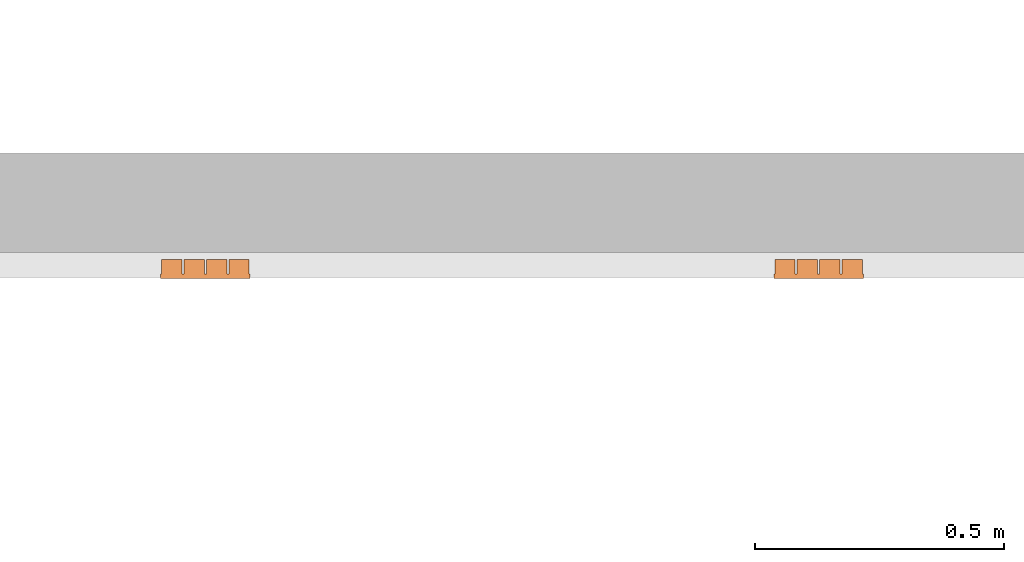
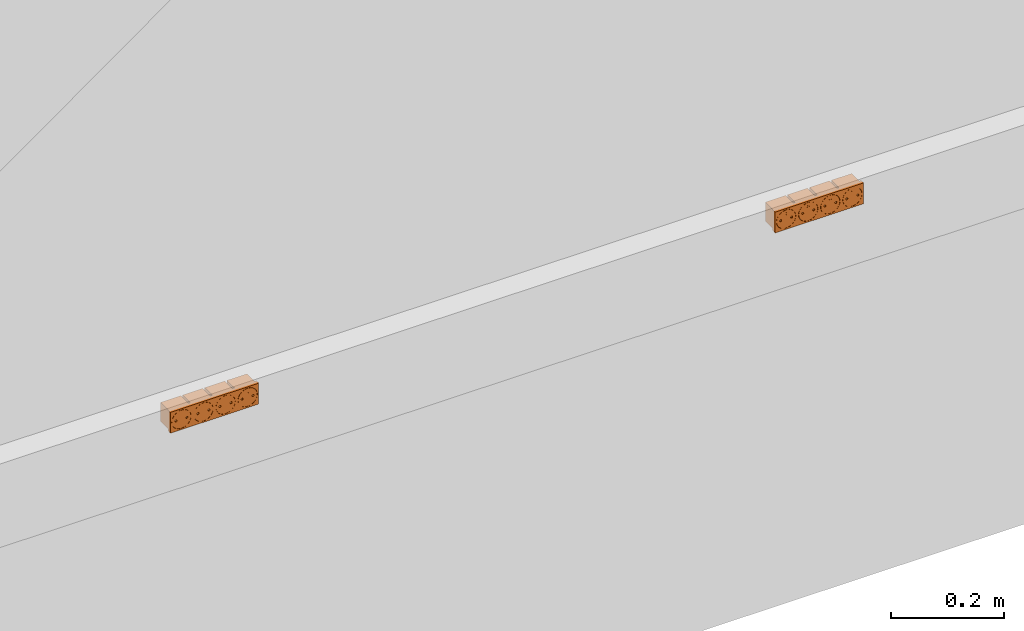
# One storey, part 68 of 197: 2 proxies.
"""IFC2X3 building model written with IfcOpenShell, lengths in metres."""

from ifc_helpers import new_model, entity, si_unit, converted_unit, direction, frame, frame_2d, origin, origin_2d_with_axis, place, context, subcontext, project, spatial, polyline, circle_curve, parameter, trimmed, segment, composite_curve, rectangle, circle, outline, extrude, source, transform, mapped, material, material_list, type_object, type_shapes, element, save


model = new_model("IFC2X3")

# Units and contexts
model_context = context("Model", 3, precision=1e-05, world=origin(), true_north=direction((6.123031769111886e-17, 1.0)))
body_context = subcontext(model_context, "Body", "Model", "MODEL_VIEW")
ifc_project = project(units=[si_unit("LENGTHUNIT", "METRE"), converted_unit("PLANEANGLEUNIT", "DEGREE", entity("IfcPlaneAngleMeasure", 0.017453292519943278), si_unit("PLANEANGLEUNIT", "RADIAN"), dimensions=[0, 0, 0, 0, 0, 0, 0]), si_unit("AREAUNIT", "SQUARE_METRE")], contexts=[model_context])

# Site, building, storey
site_placement = place(None, origin())
site = spatial("IfcSite", under=ifc_project, at=site_placement, Name="Default", CompositionType="ELEMENT")
building_placement = place(site_placement, origin())
building = spatial("IfcBuilding", under=site, at=building_placement, CompositionType="ELEMENT")
storey_placement = place(building_placement, origin())
storey = spatial("IfcBuildingStorey", under=building, at=storey_placement, Name="Niveau 0", CompositionType="ELEMENT", Elevation=0.0)

# Proxies
ifc_material_1 = material(Name="<Unnamed>")
ifc_material_2 = material(Name="BETCE-PCN-BLANC")
ifc_material_list = material_list([ifc_material_1, ifc_material_2])
building_element_proxy_type_1 = type_object("IfcBuildingElementProxyType", Name="Prise quadruple goulotte horizontale:PCM", PredefinedType="NOTDEFINED", material=ifc_material_list)
shared_shape_1 = source(origin(), body_context, "Body", "SweptSolid", [
    extrude(rectangle(XDim=0.02900000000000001, YDim=0.040999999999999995, at=frame_2d((8.673617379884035e-19, -3.469446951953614e-18), x_axis=(1.0, 0.0))), frame((0.06745922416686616, 0.014506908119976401, -0.02050000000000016), z_axis=(0.0, 0.0, 1.0), x_axis=(0.0, 1.0, 0.0)), (0.0, 0.0, 1.0), 0.041),
    extrude(outline(polyline([(-0.022500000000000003, -0.022500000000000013), (0.022500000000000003, -0.022500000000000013), (0.022500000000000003, 0.022500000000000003), (-0.0225, 0.022500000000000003), (-0.022500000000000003, -0.022500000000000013)]), holes=[composite_curve([segment(trimmed(circle_curve(frame_2d((0.0, 0.0), x_axis=(0.0, 1.0)), 0.019799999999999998), [parameter(179.99999999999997)], [parameter(359.99999999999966)], True, "PARAMETER"), False, "CONTINUOUS"), segment(trimmed(circle_curve(frame_2d((0.0, 0.0), x_axis=(0.0, 1.0)), 0.019799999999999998), [parameter(3.5622212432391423e-13)], [parameter(179.99999999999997)], True, "PARAMETER"), False, "CONTINUOUS")], self_intersect=False)]), frame((0.06745922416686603, -0.00899309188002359, 0.0), z_axis=(0.0, 1.0, 0.0), x_axis=(0.0, 0.0, 1.0)), (0.0, 0.0, 1.0), 0.008993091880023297),
    extrude(outline(composite_curve([segment(trimmed(circle_curve(origin_2d_with_axis(), 0.0195), [parameter(3.5622212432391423e-13)], [parameter(180.00000000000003)], True, "PARAMETER"), True, "CONTINUOUS"), segment(trimmed(circle_curve(origin_2d_with_axis(), 0.0195), [parameter(180.00000000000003)], [parameter(359.99999999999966)], True, "PARAMETER"), True, "CONTINUOUS")], self_intersect=False), holes=[composite_curve([segment(trimmed(circle_curve(frame_2d((0.0, -0.01110000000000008), x_axis=(1.0, 0.0)), 0.0022), [parameter(179.9999999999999)], [parameter(359.9999999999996)], True, "PARAMETER"), False, "CONTINUOUS"), segment(trimmed(circle_curve(frame_2d((0.0, -0.01110000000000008), x_axis=(1.0, 0.0)), 0.0022), [parameter(4.0711099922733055e-13)], [parameter(179.99999999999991)], True, "PARAMETER"), False, "CONTINUOUS")], self_intersect=False), composite_curve([segment(trimmed(circle_curve(frame_2d((0.011200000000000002, 0.0), x_axis=(1.0, 0.0)), 0.0022), [parameter(179.99999999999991)], [parameter(359.99999999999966)], True, "PARAMETER"), False, "CONTINUOUS"), segment(trimmed(circle_curve(frame_2d((0.011200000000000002, 0.0), x_axis=(1.0, 0.0)), 0.0022), [parameter(3.5622212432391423e-13)], [parameter(179.99999999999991)], True, "PARAMETER"), False, "CONTINUOUS")], self_intersect=False), composite_curve([segment(trimmed(circle_curve(frame_2d((-0.01119999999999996, 0.0), x_axis=(1.0, 0.0)), 0.0022), [parameter(179.99999999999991)], [parameter(359.99999999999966)], True, "PARAMETER"), False, "CONTINUOUS"), segment(trimmed(circle_curve(frame_2d((-0.01119999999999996, 0.0), x_axis=(1.0, 0.0)), 0.0022), [parameter(3.5622212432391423e-13)], [parameter(179.99999999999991)], True, "PARAMETER"), False, "CONTINUOUS")], self_intersect=False)]), frame((0.0674592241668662, -0.00899309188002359, 0.0), z_axis=(0.0, 1.0, 0.0), x_axis=(1.0, 0.0, 0.0)), (0.0, 0.0, 1.0), 0.008993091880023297),
    extrude(circle(Radius=0.002099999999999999, at=frame_2d((0.0, -8.459899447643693e-18), x_axis=(1.0, 0.0))), frame((0.06745922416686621, -0.008993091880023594, 0.011099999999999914), z_axis=(0.0, 1.0, 0.0), x_axis=(1.0, 0.0, 0.0)), (0.0, 0.0, 1.0), 0.008993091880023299),
    extrude(rectangle(XDim=0.02900690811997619, YDim=0.041, at=frame_2d((8.673617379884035e-19, 0.0), x_axis=(1.0, 0.0))), frame((-0.06754077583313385, 0.014503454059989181, -0.020500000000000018), z_axis=(0.0, 0.0, 1.0), x_axis=(0.0, 1.0, 0.0)), (0.0, 0.0, 1.0), 0.041),
    extrude(outline(polyline([(-0.022500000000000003, -0.022499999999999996), (0.022500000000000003, -0.022499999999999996), (0.022500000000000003, 0.022500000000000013), (-0.0225, 0.022500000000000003), (-0.022500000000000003, -0.022499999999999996)]), holes=[composite_curve([segment(trimmed(circle_curve(frame_2d((0.0, 0.0), x_axis=(0.0, 1.0)), 0.019799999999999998), [parameter(179.99999999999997)], [parameter(359.99999999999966)], True, "PARAMETER"), False, "CONTINUOUS"), segment(trimmed(circle_curve(frame_2d((0.0, 0.0), x_axis=(0.0, 1.0)), 0.019799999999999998), [parameter(3.5622212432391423e-13)], [parameter(179.99999999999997)], True, "PARAMETER"), False, "CONTINUOUS")], self_intersect=False)]), frame((-0.067540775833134, -0.00899309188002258, 0.0), z_axis=(0.0, 1.0, 0.0), x_axis=(0.0, 0.0, 1.0)), (0.0, 0.0, 1.0), 0.008993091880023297),
    extrude(outline(composite_curve([segment(trimmed(circle_curve(origin_2d_with_axis(), 0.0195), [parameter(3.5622212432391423e-13)], [parameter(180.00000000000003)], True, "PARAMETER"), True, "CONTINUOUS"), segment(trimmed(circle_curve(origin_2d_with_axis(), 0.0195), [parameter(180.00000000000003)], [parameter(359.99999999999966)], True, "PARAMETER"), True, "CONTINUOUS")], self_intersect=False), holes=[composite_curve([segment(trimmed(circle_curve(frame_2d((0.0, -0.01110000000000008), x_axis=(1.0, 0.0)), 0.0022), [parameter(179.9999999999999)], [parameter(359.9999999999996)], True, "PARAMETER"), False, "CONTINUOUS"), segment(trimmed(circle_curve(frame_2d((0.0, -0.01110000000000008), x_axis=(1.0, 0.0)), 0.0022), [parameter(4.0711099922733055e-13)], [parameter(179.99999999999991)], True, "PARAMETER"), False, "CONTINUOUS")], self_intersect=False), composite_curve([segment(trimmed(circle_curve(frame_2d((0.011199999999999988, 0.0), x_axis=(1.0, 0.0)), 0.0022), [parameter(179.99999999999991)], [parameter(359.99999999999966)], True, "PARAMETER"), False, "CONTINUOUS"), segment(trimmed(circle_curve(frame_2d((0.011199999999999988, 0.0), x_axis=(1.0, 0.0)), 0.0022), [parameter(3.5622212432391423e-13)], [parameter(179.99999999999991)], True, "PARAMETER"), False, "CONTINUOUS")], self_intersect=False), composite_curve([segment(trimmed(circle_curve(frame_2d((-0.01119999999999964, 0.0), x_axis=(1.0, 0.0)), 0.0022), [parameter(179.99999999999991)], [parameter(359.99999999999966)], True, "PARAMETER"), False, "CONTINUOUS"), segment(trimmed(circle_curve(frame_2d((-0.01119999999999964, 0.0), x_axis=(1.0, 0.0)), 0.0022), [parameter(3.5622212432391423e-13)], [parameter(179.99999999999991)], True, "PARAMETER"), False, "CONTINUOUS")], self_intersect=False)]), frame((-0.0675407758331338, -0.00899309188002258, 0.0), z_axis=(0.0, 1.0, 0.0), x_axis=(1.0, 0.0, 0.0)), (0.0, 0.0, 1.0), 0.008993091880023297),
    extrude(circle(Radius=0.002099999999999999, at=frame_2d((0.0, -8.459899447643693e-18), x_axis=(1.0, 0.0))), frame((-0.06754077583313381, -0.008993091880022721, 0.011100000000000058), z_axis=(0.0, 1.0, 0.0), x_axis=(1.0, 0.0, 0.0)), (0.0, 0.0, 1.0), 0.008993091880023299),
    extrude(circle(Radius=0.002099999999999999, at=frame_2d((0.0, -8.459899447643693e-18), x_axis=(1.0, 0.0))), frame((0.022459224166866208, -0.008993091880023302, 0.011100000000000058), z_axis=(0.0, 1.0, 0.0), x_axis=(1.0, 0.0, 0.0)), (0.0, 0.0, 1.0), 0.008993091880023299),
    extrude(rectangle(XDim=0.02900000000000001, YDim=0.041, at=frame_2d((8.673617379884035e-19, 0.0), x_axis=(1.0, 0.0))), frame((0.022459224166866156, 0.014506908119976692, -0.020500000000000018), z_axis=(0.0, 0.0, 1.0), x_axis=(0.0, 1.0, 0.0)), (0.0, 0.0, 1.0), 0.041),
    extrude(outline(polyline([(-0.022500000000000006, -0.022500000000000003), (0.022500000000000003, -0.022500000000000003), (0.022500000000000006, 0.022500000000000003), (-0.0225, 0.0225), (-0.022500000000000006, -0.022500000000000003)]), holes=[composite_curve([segment(trimmed(circle_curve(frame_2d((0.0, 0.0), x_axis=(0.0, 1.0)), 0.019799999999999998), [parameter(179.99999999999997)], [parameter(359.99999999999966)], True, "PARAMETER"), False, "CONTINUOUS"), segment(trimmed(circle_curve(frame_2d((0.0, 0.0), x_axis=(0.0, 1.0)), 0.019799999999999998), [parameter(3.5622212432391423e-13)], [parameter(179.99999999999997)], True, "PARAMETER"), False, "CONTINUOUS")], self_intersect=False)]), frame((0.02245922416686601, -0.0089930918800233, 0.0), z_axis=(0.0, 1.0, 0.0), x_axis=(0.0, 0.0, 1.0)), (0.0, 0.0, 1.0), 0.008993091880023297),
    extrude(outline(composite_curve([segment(trimmed(circle_curve(origin_2d_with_axis(), 0.0195), [parameter(3.5622212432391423e-13)], [parameter(180.00000000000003)], True, "PARAMETER"), True, "CONTINUOUS"), segment(trimmed(circle_curve(origin_2d_with_axis(), 0.0195), [parameter(180.00000000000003)], [parameter(359.99999999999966)], True, "PARAMETER"), True, "CONTINUOUS")], self_intersect=False), holes=[composite_curve([segment(trimmed(circle_curve(frame_2d((0.0, -0.01110000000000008), x_axis=(1.0, 0.0)), 0.0022), [parameter(179.9999999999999)], [parameter(359.9999999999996)], True, "PARAMETER"), False, "CONTINUOUS"), segment(trimmed(circle_curve(frame_2d((0.0, -0.01110000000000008), x_axis=(1.0, 0.0)), 0.0022), [parameter(4.0711099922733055e-13)], [parameter(179.99999999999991)], True, "PARAMETER"), False, "CONTINUOUS")], self_intersect=False), composite_curve([segment(trimmed(circle_curve(frame_2d((0.011199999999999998, 0.0), x_axis=(1.0, 0.0)), 0.0022), [parameter(179.99999999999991)], [parameter(359.99999999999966)], True, "PARAMETER"), False, "CONTINUOUS"), segment(trimmed(circle_curve(frame_2d((0.011199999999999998, 0.0), x_axis=(1.0, 0.0)), 0.0022), [parameter(3.5622212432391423e-13)], [parameter(179.99999999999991)], True, "PARAMETER"), False, "CONTINUOUS")], self_intersect=False), composite_curve([segment(trimmed(circle_curve(frame_2d((-0.011199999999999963, 0.0), x_axis=(1.0, 0.0)), 0.0022), [parameter(179.99999999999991)], [parameter(359.99999999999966)], True, "PARAMETER"), False, "CONTINUOUS"), segment(trimmed(circle_curve(frame_2d((-0.011199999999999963, 0.0), x_axis=(1.0, 0.0)), 0.0022), [parameter(3.5622212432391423e-13)], [parameter(179.99999999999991)], True, "PARAMETER"), False, "CONTINUOUS")], self_intersect=False)]), frame((0.02245922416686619, -0.0089930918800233, 0.0), z_axis=(0.0, 1.0, 0.0), x_axis=(1.0, 0.0, 0.0)), (0.0, 0.0, 1.0), 0.008993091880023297),
    extrude(circle(Radius=0.002099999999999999, at=frame_2d((0.0, -8.459899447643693e-18), x_axis=(1.0, 0.0))), frame((-0.0225407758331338, -0.008993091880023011, 0.011100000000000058), z_axis=(0.0, 1.0, 0.0), x_axis=(1.0, 0.0, 0.0)), (0.0, 0.0, 1.0), 0.008993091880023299),
    extrude(rectangle(XDim=0.02900690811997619, YDim=0.041, at=frame_2d((-8.673617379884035e-19, 0.0), x_axis=(1.0, 0.0))), frame((-0.022540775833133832, 0.014503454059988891, -0.020500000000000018), z_axis=(0.0, 0.0, 1.0), x_axis=(0.0, 1.0, 0.0)), (0.0, 0.0, 1.0), 0.041),
    extrude(outline(polyline([(-0.022500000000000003, -0.022500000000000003), (0.022500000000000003, -0.022500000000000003), (0.022500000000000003, 0.022500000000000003), (-0.0225, 0.022500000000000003), (-0.022500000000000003, -0.022500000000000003)]), holes=[composite_curve([segment(trimmed(circle_curve(frame_2d((0.0, 0.0), x_axis=(0.0, 1.0)), 0.019799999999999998), [parameter(179.99999999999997)], [parameter(359.99999999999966)], True, "PARAMETER"), False, "CONTINUOUS"), segment(trimmed(circle_curve(frame_2d((0.0, 0.0), x_axis=(0.0, 1.0)), 0.019799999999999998), [parameter(3.5622212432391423e-13)], [parameter(179.99999999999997)], True, "PARAMETER"), False, "CONTINUOUS")], self_intersect=False)]), frame((-0.022540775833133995, -0.00899309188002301, 0.0), z_axis=(0.0, 1.0, 0.0), x_axis=(0.0, 0.0, 1.0)), (0.0, 0.0, 1.0), 0.008993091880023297),
    extrude(outline(composite_curve([segment(trimmed(circle_curve(origin_2d_with_axis(), 0.0195), [parameter(3.5622212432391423e-13)], [parameter(180.00000000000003)], True, "PARAMETER"), True, "CONTINUOUS"), segment(trimmed(circle_curve(origin_2d_with_axis(), 0.0195), [parameter(180.00000000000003)], [parameter(359.99999999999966)], True, "PARAMETER"), True, "CONTINUOUS")], self_intersect=False), holes=[composite_curve([segment(trimmed(circle_curve(frame_2d((0.0, -0.01110000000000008), x_axis=(1.0, 0.0)), 0.0022), [parameter(179.9999999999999)], [parameter(359.9999999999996)], True, "PARAMETER"), False, "CONTINUOUS"), segment(trimmed(circle_curve(frame_2d((0.0, -0.01110000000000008), x_axis=(1.0, 0.0)), 0.0022), [parameter(4.0711099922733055e-13)], [parameter(179.99999999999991)], True, "PARAMETER"), False, "CONTINUOUS")], self_intersect=False), composite_curve([segment(trimmed(circle_curve(frame_2d((0.011199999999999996, 0.0), x_axis=(1.0, 0.0)), 0.0022), [parameter(179.99999999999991)], [parameter(359.99999999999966)], True, "PARAMETER"), False, "CONTINUOUS"), segment(trimmed(circle_curve(frame_2d((0.011199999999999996, 0.0), x_axis=(1.0, 0.0)), 0.0022), [parameter(3.5622212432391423e-13)], [parameter(179.99999999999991)], True, "PARAMETER"), False, "CONTINUOUS")], self_intersect=False), composite_curve([segment(trimmed(circle_curve(frame_2d((-0.011199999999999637, 0.0), x_axis=(1.0, 0.0)), 0.0022), [parameter(179.99999999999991)], [parameter(359.99999999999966)], True, "PARAMETER"), False, "CONTINUOUS"), segment(trimmed(circle_curve(frame_2d((-0.011199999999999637, 0.0), x_axis=(1.0, 0.0)), 0.0022), [parameter(3.5622212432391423e-13)], [parameter(179.99999999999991)], True, "PARAMETER"), False, "CONTINUOUS")], self_intersect=False)]), frame((-0.0225407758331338, -0.00899309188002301, 0.0), z_axis=(0.0, 1.0, 0.0), x_axis=(1.0, 0.0, 0.0)), (0.0, 0.0, 1.0), 0.008993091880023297),
])
type_shapes(building_element_proxy_type_1, [shared_shape_1])
proxy_1_placement = place(storey_placement, frame((-397.444448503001, 76.46896719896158, 0.8693246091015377)))
element("IfcBuildingElementProxy", 1, at=proxy_1_placement, inside=storey, type_object=building_element_proxy_type_1, material=ifc_material_list, Name="Prise quadruple goulotte horizontale:PCM", ObjectType="Prise quadruple goulotte horizontale:PCM", context=body_context, shape_type="MappedRepresentation", body=[
    mapped(shared_shape_1, transform((0.0, 0.0, 0.0), scale=1.0)),
])
building_element_proxy_type_2 = type_object("IfcBuildingElementProxyType", Name="Prise quadruple goulotte horizontale:PCN", PredefinedType="NOTDEFINED", material=ifc_material_list)
shared_shape_2 = source(origin(), body_context, "Body", "SweptSolid", [
    extrude(rectangle(XDim=0.02900000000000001, YDim=0.040999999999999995, at=frame_2d((8.673617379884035e-19, -3.469446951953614e-18), x_axis=(1.0, 0.0))), frame((0.06745922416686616, 0.014506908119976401, -0.02050000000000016), z_axis=(0.0, 0.0, 1.0), x_axis=(0.0, 1.0, 0.0)), (0.0, 0.0, 1.0), 0.041),
    extrude(outline(polyline([(-0.022500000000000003, -0.022500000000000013), (0.022500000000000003, -0.022500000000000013), (0.022500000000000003, 0.022500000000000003), (-0.0225, 0.022500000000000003), (-0.022500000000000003, -0.022500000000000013)]), holes=[composite_curve([segment(trimmed(circle_curve(frame_2d((0.0, 0.0), x_axis=(0.0, 1.0)), 0.019799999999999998), [parameter(179.99999999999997)], [parameter(359.99999999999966)], True, "PARAMETER"), False, "CONTINUOUS"), segment(trimmed(circle_curve(frame_2d((0.0, 0.0), x_axis=(0.0, 1.0)), 0.019799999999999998), [parameter(3.5622212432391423e-13)], [parameter(179.99999999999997)], True, "PARAMETER"), False, "CONTINUOUS")], self_intersect=False)]), frame((0.06745922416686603, -0.00899309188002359, 0.0), z_axis=(0.0, 1.0, 0.0), x_axis=(0.0, 0.0, 1.0)), (0.0, 0.0, 1.0), 0.008993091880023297),
    extrude(outline(composite_curve([segment(trimmed(circle_curve(origin_2d_with_axis(), 0.0195), [parameter(3.5622212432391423e-13)], [parameter(180.00000000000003)], True, "PARAMETER"), True, "CONTINUOUS"), segment(trimmed(circle_curve(origin_2d_with_axis(), 0.0195), [parameter(180.00000000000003)], [parameter(359.99999999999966)], True, "PARAMETER"), True, "CONTINUOUS")], self_intersect=False), holes=[composite_curve([segment(trimmed(circle_curve(frame_2d((0.0, -0.01110000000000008), x_axis=(1.0, 0.0)), 0.0022), [parameter(179.9999999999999)], [parameter(359.9999999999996)], True, "PARAMETER"), False, "CONTINUOUS"), segment(trimmed(circle_curve(frame_2d((0.0, -0.01110000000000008), x_axis=(1.0, 0.0)), 0.0022), [parameter(4.0711099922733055e-13)], [parameter(179.99999999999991)], True, "PARAMETER"), False, "CONTINUOUS")], self_intersect=False), composite_curve([segment(trimmed(circle_curve(frame_2d((0.011200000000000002, 0.0), x_axis=(1.0, 0.0)), 0.0022), [parameter(179.99999999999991)], [parameter(359.99999999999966)], True, "PARAMETER"), False, "CONTINUOUS"), segment(trimmed(circle_curve(frame_2d((0.011200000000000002, 0.0), x_axis=(1.0, 0.0)), 0.0022), [parameter(3.5622212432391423e-13)], [parameter(179.99999999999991)], True, "PARAMETER"), False, "CONTINUOUS")], self_intersect=False), composite_curve([segment(trimmed(circle_curve(frame_2d((-0.01119999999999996, 0.0), x_axis=(1.0, 0.0)), 0.0022), [parameter(179.99999999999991)], [parameter(359.99999999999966)], True, "PARAMETER"), False, "CONTINUOUS"), segment(trimmed(circle_curve(frame_2d((-0.01119999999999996, 0.0), x_axis=(1.0, 0.0)), 0.0022), [parameter(3.5622212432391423e-13)], [parameter(179.99999999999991)], True, "PARAMETER"), False, "CONTINUOUS")], self_intersect=False)]), frame((0.0674592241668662, -0.00899309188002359, 0.0), z_axis=(0.0, 1.0, 0.0), x_axis=(1.0, 0.0, 0.0)), (0.0, 0.0, 1.0), 0.008993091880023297),
    extrude(circle(Radius=0.002099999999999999, at=frame_2d((0.0, -8.459899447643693e-18), x_axis=(1.0, 0.0))), frame((0.06745922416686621, -0.008993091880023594, 0.011099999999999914), z_axis=(0.0, 1.0, 0.0), x_axis=(1.0, 0.0, 0.0)), (0.0, 0.0, 1.0), 0.008993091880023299),
    extrude(rectangle(XDim=0.02900690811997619, YDim=0.041, at=frame_2d((8.673617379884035e-19, 0.0), x_axis=(1.0, 0.0))), frame((-0.06754077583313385, 0.014503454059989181, -0.020500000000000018), z_axis=(0.0, 0.0, 1.0), x_axis=(0.0, 1.0, 0.0)), (0.0, 0.0, 1.0), 0.041),
    extrude(outline(polyline([(-0.022500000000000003, -0.022499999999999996), (0.022500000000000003, -0.022499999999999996), (0.022500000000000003, 0.022500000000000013), (-0.0225, 0.022500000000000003), (-0.022500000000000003, -0.022499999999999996)]), holes=[composite_curve([segment(trimmed(circle_curve(frame_2d((0.0, 0.0), x_axis=(0.0, 1.0)), 0.019799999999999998), [parameter(179.99999999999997)], [parameter(359.99999999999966)], True, "PARAMETER"), False, "CONTINUOUS"), segment(trimmed(circle_curve(frame_2d((0.0, 0.0), x_axis=(0.0, 1.0)), 0.019799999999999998), [parameter(3.5622212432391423e-13)], [parameter(179.99999999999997)], True, "PARAMETER"), False, "CONTINUOUS")], self_intersect=False)]), frame((-0.067540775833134, -0.00899309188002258, 0.0), z_axis=(0.0, 1.0, 0.0), x_axis=(0.0, 0.0, 1.0)), (0.0, 0.0, 1.0), 0.008993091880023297),
    extrude(outline(composite_curve([segment(trimmed(circle_curve(origin_2d_with_axis(), 0.0195), [parameter(3.5622212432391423e-13)], [parameter(180.00000000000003)], True, "PARAMETER"), True, "CONTINUOUS"), segment(trimmed(circle_curve(origin_2d_with_axis(), 0.0195), [parameter(180.00000000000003)], [parameter(359.99999999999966)], True, "PARAMETER"), True, "CONTINUOUS")], self_intersect=False), holes=[composite_curve([segment(trimmed(circle_curve(frame_2d((0.0, -0.01110000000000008), x_axis=(1.0, 0.0)), 0.0022), [parameter(179.9999999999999)], [parameter(359.9999999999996)], True, "PARAMETER"), False, "CONTINUOUS"), segment(trimmed(circle_curve(frame_2d((0.0, -0.01110000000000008), x_axis=(1.0, 0.0)), 0.0022), [parameter(4.0711099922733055e-13)], [parameter(179.99999999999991)], True, "PARAMETER"), False, "CONTINUOUS")], self_intersect=False), composite_curve([segment(trimmed(circle_curve(frame_2d((0.011199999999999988, 0.0), x_axis=(1.0, 0.0)), 0.0022), [parameter(179.99999999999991)], [parameter(359.99999999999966)], True, "PARAMETER"), False, "CONTINUOUS"), segment(trimmed(circle_curve(frame_2d((0.011199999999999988, 0.0), x_axis=(1.0, 0.0)), 0.0022), [parameter(3.5622212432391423e-13)], [parameter(179.99999999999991)], True, "PARAMETER"), False, "CONTINUOUS")], self_intersect=False), composite_curve([segment(trimmed(circle_curve(frame_2d((-0.01119999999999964, 0.0), x_axis=(1.0, 0.0)), 0.0022), [parameter(179.99999999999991)], [parameter(359.99999999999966)], True, "PARAMETER"), False, "CONTINUOUS"), segment(trimmed(circle_curve(frame_2d((-0.01119999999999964, 0.0), x_axis=(1.0, 0.0)), 0.0022), [parameter(3.5622212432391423e-13)], [parameter(179.99999999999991)], True, "PARAMETER"), False, "CONTINUOUS")], self_intersect=False)]), frame((-0.0675407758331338, -0.00899309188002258, 0.0), z_axis=(0.0, 1.0, 0.0), x_axis=(1.0, 0.0, 0.0)), (0.0, 0.0, 1.0), 0.008993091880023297),
    extrude(circle(Radius=0.002099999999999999, at=frame_2d((0.0, -8.459899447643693e-18), x_axis=(1.0, 0.0))), frame((-0.06754077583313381, -0.008993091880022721, 0.011100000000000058), z_axis=(0.0, 1.0, 0.0), x_axis=(1.0, 0.0, 0.0)), (0.0, 0.0, 1.0), 0.008993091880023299),
    extrude(circle(Radius=0.002099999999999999, at=frame_2d((0.0, -8.459899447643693e-18), x_axis=(1.0, 0.0))), frame((0.022459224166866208, -0.008993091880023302, 0.011100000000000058), z_axis=(0.0, 1.0, 0.0), x_axis=(1.0, 0.0, 0.0)), (0.0, 0.0, 1.0), 0.008993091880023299),
    extrude(rectangle(XDim=0.02900000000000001, YDim=0.041, at=frame_2d((8.673617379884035e-19, 0.0), x_axis=(1.0, 0.0))), frame((0.022459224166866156, 0.014506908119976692, -0.020500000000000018), z_axis=(0.0, 0.0, 1.0), x_axis=(0.0, 1.0, 0.0)), (0.0, 0.0, 1.0), 0.041),
    extrude(outline(polyline([(-0.022500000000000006, -0.022500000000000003), (0.022500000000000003, -0.022500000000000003), (0.022500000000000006, 0.022500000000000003), (-0.0225, 0.0225), (-0.022500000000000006, -0.022500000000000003)]), holes=[composite_curve([segment(trimmed(circle_curve(frame_2d((0.0, 0.0), x_axis=(0.0, 1.0)), 0.019799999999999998), [parameter(179.99999999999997)], [parameter(359.99999999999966)], True, "PARAMETER"), False, "CONTINUOUS"), segment(trimmed(circle_curve(frame_2d((0.0, 0.0), x_axis=(0.0, 1.0)), 0.019799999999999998), [parameter(3.5622212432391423e-13)], [parameter(179.99999999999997)], True, "PARAMETER"), False, "CONTINUOUS")], self_intersect=False)]), frame((0.02245922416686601, -0.0089930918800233, 0.0), z_axis=(0.0, 1.0, 0.0), x_axis=(0.0, 0.0, 1.0)), (0.0, 0.0, 1.0), 0.008993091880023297),
    extrude(outline(composite_curve([segment(trimmed(circle_curve(origin_2d_with_axis(), 0.0195), [parameter(3.5622212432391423e-13)], [parameter(180.00000000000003)], True, "PARAMETER"), True, "CONTINUOUS"), segment(trimmed(circle_curve(origin_2d_with_axis(), 0.0195), [parameter(180.00000000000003)], [parameter(359.99999999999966)], True, "PARAMETER"), True, "CONTINUOUS")], self_intersect=False), holes=[composite_curve([segment(trimmed(circle_curve(frame_2d((0.0, -0.01110000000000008), x_axis=(1.0, 0.0)), 0.0022), [parameter(179.9999999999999)], [parameter(359.9999999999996)], True, "PARAMETER"), False, "CONTINUOUS"), segment(trimmed(circle_curve(frame_2d((0.0, -0.01110000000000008), x_axis=(1.0, 0.0)), 0.0022), [parameter(4.0711099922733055e-13)], [parameter(179.99999999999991)], True, "PARAMETER"), False, "CONTINUOUS")], self_intersect=False), composite_curve([segment(trimmed(circle_curve(frame_2d((0.011199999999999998, 0.0), x_axis=(1.0, 0.0)), 0.0022), [parameter(179.99999999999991)], [parameter(359.99999999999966)], True, "PARAMETER"), False, "CONTINUOUS"), segment(trimmed(circle_curve(frame_2d((0.011199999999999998, 0.0), x_axis=(1.0, 0.0)), 0.0022), [parameter(3.5622212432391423e-13)], [parameter(179.99999999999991)], True, "PARAMETER"), False, "CONTINUOUS")], self_intersect=False), composite_curve([segment(trimmed(circle_curve(frame_2d((-0.011199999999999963, 0.0), x_axis=(1.0, 0.0)), 0.0022), [parameter(179.99999999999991)], [parameter(359.99999999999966)], True, "PARAMETER"), False, "CONTINUOUS"), segment(trimmed(circle_curve(frame_2d((-0.011199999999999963, 0.0), x_axis=(1.0, 0.0)), 0.0022), [parameter(3.5622212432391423e-13)], [parameter(179.99999999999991)], True, "PARAMETER"), False, "CONTINUOUS")], self_intersect=False)]), frame((0.02245922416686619, -0.0089930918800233, 0.0), z_axis=(0.0, 1.0, 0.0), x_axis=(1.0, 0.0, 0.0)), (0.0, 0.0, 1.0), 0.008993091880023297),
    extrude(circle(Radius=0.002099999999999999, at=frame_2d((0.0, -8.459899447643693e-18), x_axis=(1.0, 0.0))), frame((-0.0225407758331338, -0.008993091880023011, 0.011100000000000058), z_axis=(0.0, 1.0, 0.0), x_axis=(1.0, 0.0, 0.0)), (0.0, 0.0, 1.0), 0.008993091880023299),
    extrude(rectangle(XDim=0.02900690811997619, YDim=0.041, at=frame_2d((-8.673617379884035e-19, 0.0), x_axis=(1.0, 0.0))), frame((-0.022540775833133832, 0.014503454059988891, -0.020500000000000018), z_axis=(0.0, 0.0, 1.0), x_axis=(0.0, 1.0, 0.0)), (0.0, 0.0, 1.0), 0.041),
    extrude(outline(polyline([(-0.022500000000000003, -0.022500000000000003), (0.022500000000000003, -0.022500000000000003), (0.022500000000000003, 0.022500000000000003), (-0.0225, 0.022500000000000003), (-0.022500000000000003, -0.022500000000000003)]), holes=[composite_curve([segment(trimmed(circle_curve(frame_2d((0.0, 0.0), x_axis=(0.0, 1.0)), 0.019799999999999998), [parameter(179.99999999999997)], [parameter(359.99999999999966)], True, "PARAMETER"), False, "CONTINUOUS"), segment(trimmed(circle_curve(frame_2d((0.0, 0.0), x_axis=(0.0, 1.0)), 0.019799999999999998), [parameter(3.5622212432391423e-13)], [parameter(179.99999999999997)], True, "PARAMETER"), False, "CONTINUOUS")], self_intersect=False)]), frame((-0.022540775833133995, -0.00899309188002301, 0.0), z_axis=(0.0, 1.0, 0.0), x_axis=(0.0, 0.0, 1.0)), (0.0, 0.0, 1.0), 0.008993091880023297),
    extrude(outline(composite_curve([segment(trimmed(circle_curve(origin_2d_with_axis(), 0.0195), [parameter(3.5622212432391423e-13)], [parameter(180.00000000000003)], True, "PARAMETER"), True, "CONTINUOUS"), segment(trimmed(circle_curve(origin_2d_with_axis(), 0.0195), [parameter(180.00000000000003)], [parameter(359.99999999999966)], True, "PARAMETER"), True, "CONTINUOUS")], self_intersect=False), holes=[composite_curve([segment(trimmed(circle_curve(frame_2d((0.0, -0.01110000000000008), x_axis=(1.0, 0.0)), 0.0022), [parameter(179.9999999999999)], [parameter(359.9999999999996)], True, "PARAMETER"), False, "CONTINUOUS"), segment(trimmed(circle_curve(frame_2d((0.0, -0.01110000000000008), x_axis=(1.0, 0.0)), 0.0022), [parameter(4.0711099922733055e-13)], [parameter(179.99999999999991)], True, "PARAMETER"), False, "CONTINUOUS")], self_intersect=False), composite_curve([segment(trimmed(circle_curve(frame_2d((0.011199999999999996, 0.0), x_axis=(1.0, 0.0)), 0.0022), [parameter(179.99999999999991)], [parameter(359.99999999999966)], True, "PARAMETER"), False, "CONTINUOUS"), segment(trimmed(circle_curve(frame_2d((0.011199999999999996, 0.0), x_axis=(1.0, 0.0)), 0.0022), [parameter(3.5622212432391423e-13)], [parameter(179.99999999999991)], True, "PARAMETER"), False, "CONTINUOUS")], self_intersect=False), composite_curve([segment(trimmed(circle_curve(frame_2d((-0.011199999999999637, 0.0), x_axis=(1.0, 0.0)), 0.0022), [parameter(179.99999999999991)], [parameter(359.99999999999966)], True, "PARAMETER"), False, "CONTINUOUS"), segment(trimmed(circle_curve(frame_2d((-0.011199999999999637, 0.0), x_axis=(1.0, 0.0)), 0.0022), [parameter(3.5622212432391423e-13)], [parameter(179.99999999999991)], True, "PARAMETER"), False, "CONTINUOUS")], self_intersect=False)]), frame((-0.0225407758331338, -0.00899309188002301, 0.0), z_axis=(0.0, 1.0, 0.0), x_axis=(1.0, 0.0, 0.0)), (0.0, 0.0, 1.0), 0.008993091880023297),
])
type_shapes(building_element_proxy_type_2, [shared_shape_2])
proxy_2_placement = place(storey_placement, frame((-396.21244850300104, 76.46896719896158, 0.8693246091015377)))
element("IfcBuildingElementProxy", 2, at=proxy_2_placement, inside=storey, type_object=building_element_proxy_type_2, material=ifc_material_list, Name="Prise quadruple goulotte horizontale:PCN", ObjectType="Prise quadruple goulotte horizontale:PCN", context=body_context, shape_type="MappedRepresentation", body=[
    mapped(shared_shape_2, transform((0.0, 0.0, 0.0), scale=1.0)),
])

save(model, "model.ifc")
